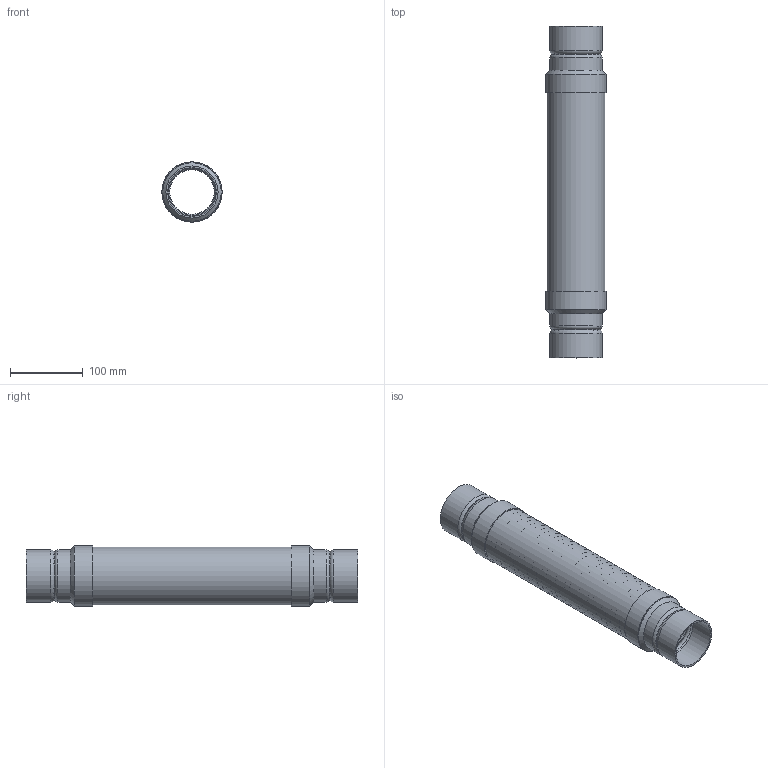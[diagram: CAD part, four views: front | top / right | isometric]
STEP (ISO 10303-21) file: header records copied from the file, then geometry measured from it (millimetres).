
FILE_DESCRIPTION((''),'2;1');
FILE_NAME('C:\2012_Work\Designs\CPSB\CPSB-2.5x18\CPSB-2.5x18.stp','2013-08-27T13:16:08',('KShiels'),(''),'Autodesk Inventor 2012','Autodesk Inventor 2012','');
FILE_SCHEMA(('AUTOMOTIVE_DESIGN { 1 0 10303 214 1 1 1 1 }'));
Length unit declared in the file: inch
Products named in the file (6): CPSB-2; CPSB-2_Welds; A-32709_2
Assembly tree (7 placements, depth 2):
  CPSB-2
    CPSB-2_Welds
    A-32709_2
    A-32709_2
    A-32709_2  x2
    A-32709_2  x2
Bounding box: 82.98 x 457.2 x 82.98 mm (x, y, z)
Volume: 197564.9 mm3; surface area: 580394.6 mm2
Topology: 8 solids, 8 shells, 334 faces, 518 edges, 342 vertices
Faces by surface type: plane 158, torus 158, cylinder 16, cone 2
Full cylindrical faces by diameter (mm): 66.878 x4, 71.704 x6, 78.994 x1, 79.807 x3, 82.982 x2
Entity records: 6642 total; most frequent: DIRECTION 1306, CARTESIAN_POINT 975, AXIS2_PLACEMENT_3D 653, ORIENTED_EDGE 644, EDGE_LOOP 636, VERTEX_POINT 322, CIRCLE 322, EDGE_CURVE 322
